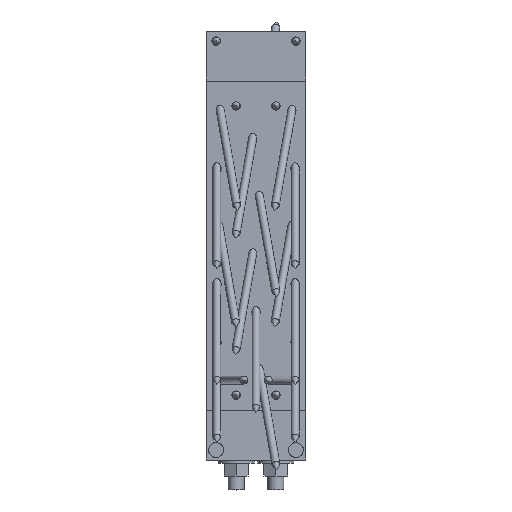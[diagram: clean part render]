
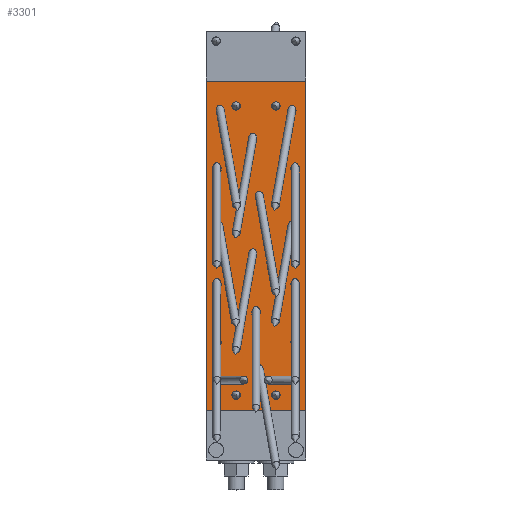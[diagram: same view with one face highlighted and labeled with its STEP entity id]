
A CAD part, top view. The second image highlights one B-rep face of the part: STEP entity #3301.
In plain terms, the highlighted planar face has unit normal (0, 0, 1) as drawn and (0, 0, -1) by its records, which use the part's own axes.
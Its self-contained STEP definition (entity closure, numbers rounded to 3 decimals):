
#384=ELLIPSE('',#3805,6.103,4.25);
#385=ELLIPSE('',#3806,6.103,4.25);
#386=ELLIPSE('',#3807,6.103,4.25);
#387=ELLIPSE('',#3808,6.103,4.25);
#388=ELLIPSE('',#3809,6.103,4.25);
#389=ELLIPSE('',#3810,6.01,4.25);
#390=ELLIPSE('',#3811,6.01,4.25);
#391=ELLIPSE('',#3812,6.103,4.25);
#392=ELLIPSE('',#3813,6.103,4.25);
#393=ELLIPSE('',#3814,6.01,4.25);
#394=ELLIPSE('',#3815,6.01,4.25);
#395=ELLIPSE('',#3816,6.01,4.25);
#396=ELLIPSE('',#3817,6.01,4.25);
#397=ELLIPSE('',#3818,6.01,4.25);
#398=ELLIPSE('',#3819,6.103,4.25);
#399=ELLIPSE('',#3824,4.316,4.25);
#400=ELLIPSE('',#3825,4.316,4.25);
#497=LINE('',#5436,#745);
#499=LINE('',#5478,#747);
#500=LINE('',#5480,#748);
#501=LINE('',#5482,#749);
#745=VECTOR('',#4333,1000.);
#747=VECTOR('',#4375,1000.);
#748=VECTOR('',#4376,1000.);
#749=VECTOR('',#4377,1000.);
#1043=ORIENTED_EDGE('',*,*,#1794,.F.);
#1044=ORIENTED_EDGE('',*,*,#1795,.F.);
#1045=ORIENTED_EDGE('',*,*,#1796,.F.);
#1046=ORIENTED_EDGE('',*,*,#1797,.F.);
#1047=ORIENTED_EDGE('',*,*,#1798,.F.);
#1048=ORIENTED_EDGE('',*,*,#1799,.F.);
#1049=ORIENTED_EDGE('',*,*,#1800,.F.);
#1050=ORIENTED_EDGE('',*,*,#1801,.F.);
#1051=ORIENTED_EDGE('',*,*,#1802,.F.);
#1052=ORIENTED_EDGE('',*,*,#1803,.F.);
#1053=ORIENTED_EDGE('',*,*,#1804,.F.);
#1054=ORIENTED_EDGE('',*,*,#1805,.F.);
#1055=ORIENTED_EDGE('',*,*,#1806,.F.);
#1056=ORIENTED_EDGE('',*,*,#1807,.F.);
#1057=ORIENTED_EDGE('',*,*,#1808,.F.);
#1058=ORIENTED_EDGE('',*,*,#1809,.F.);
#1059=ORIENTED_EDGE('',*,*,#1810,.F.);
#1060=ORIENTED_EDGE('',*,*,#1811,.F.);
#1061=ORIENTED_EDGE('',*,*,#1812,.F.);
#1062=ORIENTED_EDGE('',*,*,#1813,.F.);
#1063=ORIENTED_EDGE('',*,*,#1814,.T.);
#1064=ORIENTED_EDGE('',*,*,#1815,.T.);
#1065=ORIENTED_EDGE('',*,*,#1792,.F.);
#1066=ORIENTED_EDGE('',*,*,#1816,.T.);
#1067=ORIENTED_EDGE('',*,*,#1817,.T.);
#1792=EDGE_CURVE('',#2159,#2160,#497,.T.);
#1794=EDGE_CURVE('',#2161,#2161,#384,.T.);
#1795=EDGE_CURVE('',#2162,#2162,#385,.T.);
#1796=EDGE_CURVE('',#2163,#2163,#386,.T.);
#1797=EDGE_CURVE('',#2164,#2164,#387,.T.);
#1798=EDGE_CURVE('',#2165,#2165,#388,.T.);
#1799=EDGE_CURVE('',#2166,#2166,#389,.T.);
#1800=EDGE_CURVE('',#2167,#2167,#390,.T.);
#1801=EDGE_CURVE('',#2168,#2168,#391,.T.);
#1802=EDGE_CURVE('',#2169,#2169,#392,.T.);
#1803=EDGE_CURVE('',#2170,#2170,#393,.T.);
#1804=EDGE_CURVE('',#2171,#2171,#394,.T.);
#1805=EDGE_CURVE('',#2172,#2172,#395,.T.);
#1806=EDGE_CURVE('',#2173,#2173,#396,.T.);
#1807=EDGE_CURVE('',#2174,#2174,#397,.T.);
#1808=EDGE_CURVE('',#2175,#2175,#398,.T.);
#1809=EDGE_CURVE('',#2176,#2176,#2373,.T.);
#1810=EDGE_CURVE('',#2177,#2177,#2374,.T.);
#1811=EDGE_CURVE('',#2178,#2178,#2375,.T.);
#1812=EDGE_CURVE('',#2179,#2179,#2376,.T.);
#1813=EDGE_CURVE('',#2180,#2159,#499,.T.);
#1814=EDGE_CURVE('',#2180,#2181,#500,.T.);
#1815=EDGE_CURVE('',#2181,#2160,#501,.T.);
#1816=EDGE_CURVE('',#2182,#2182,#399,.F.);
#1817=EDGE_CURVE('',#2183,#2183,#400,.F.);
#2159=VERTEX_POINT('',#5435);
#2160=VERTEX_POINT('',#5437);
#2161=VERTEX_POINT('',#5441);
#2162=VERTEX_POINT('',#5443);
#2163=VERTEX_POINT('',#5445);
#2164=VERTEX_POINT('',#5447);
#2165=VERTEX_POINT('',#5449);
#2166=VERTEX_POINT('',#5451);
#2167=VERTEX_POINT('',#5453);
#2168=VERTEX_POINT('',#5455);
#2169=VERTEX_POINT('',#5457);
#2170=VERTEX_POINT('',#5459);
#2171=VERTEX_POINT('',#5461);
#2172=VERTEX_POINT('',#5463);
#2173=VERTEX_POINT('',#5465);
#2174=VERTEX_POINT('',#5467);
#2175=VERTEX_POINT('',#5469);
#2176=VERTEX_POINT('',#5471);
#2177=VERTEX_POINT('',#5473);
#2178=VERTEX_POINT('',#5475);
#2179=VERTEX_POINT('',#5477);
#2180=VERTEX_POINT('',#5479);
#2181=VERTEX_POINT('',#5481);
#2182=VERTEX_POINT('',#5484);
#2183=VERTEX_POINT('',#5486);
#2373=CIRCLE('',#3820,4.25);
#2374=CIRCLE('',#3821,4.25);
#2375=CIRCLE('',#3822,4.25);
#2376=CIRCLE('',#3823,4.25);
#2506=EDGE_LOOP('',(#1043));
#2507=EDGE_LOOP('',(#1044));
#2508=EDGE_LOOP('',(#1045));
#2509=EDGE_LOOP('',(#1046));
#2510=EDGE_LOOP('',(#1047));
#2511=EDGE_LOOP('',(#1048));
#2512=EDGE_LOOP('',(#1049));
#2513=EDGE_LOOP('',(#1050));
#2514=EDGE_LOOP('',(#1051));
#2515=EDGE_LOOP('',(#1052));
#2516=EDGE_LOOP('',(#1053));
#2517=EDGE_LOOP('',(#1054));
#2518=EDGE_LOOP('',(#1055));
#2519=EDGE_LOOP('',(#1056));
#2520=EDGE_LOOP('',(#1057));
#2521=EDGE_LOOP('',(#1058));
#2522=EDGE_LOOP('',(#1059));
#2523=EDGE_LOOP('',(#1060));
#2524=EDGE_LOOP('',(#1061));
#2525=EDGE_LOOP('',(#1062,#1063,#1064,#1065));
#2526=EDGE_LOOP('',(#1066));
#2527=EDGE_LOOP('',(#1067));
#2862=FACE_BOUND('',#2506,.T.);
#2863=FACE_BOUND('',#2507,.T.);
#2864=FACE_BOUND('',#2508,.T.);
#2865=FACE_BOUND('',#2509,.T.);
#2866=FACE_BOUND('',#2510,.T.);
#2867=FACE_BOUND('',#2511,.T.);
#2868=FACE_BOUND('',#2512,.T.);
#2869=FACE_BOUND('',#2513,.T.);
#2870=FACE_BOUND('',#2514,.T.);
#2871=FACE_BOUND('',#2515,.T.);
#2872=FACE_BOUND('',#2516,.T.);
#2873=FACE_BOUND('',#2517,.T.);
#2874=FACE_BOUND('',#2518,.T.);
#2875=FACE_BOUND('',#2519,.T.);
#2876=FACE_BOUND('',#2520,.T.);
#2877=FACE_BOUND('',#2521,.T.);
#2878=FACE_BOUND('',#2522,.T.);
#2879=FACE_BOUND('',#2523,.T.);
#2880=FACE_BOUND('',#2524,.T.);
#2881=FACE_BOUND('',#2525,.T.);
#2882=FACE_BOUND('',#2526,.T.);
#2883=FACE_BOUND('',#2527,.T.);
#3197=PLANE('',#3804);
#3301=ADVANCED_FACE('',(#2862,#2863,#2864,#2865,#2866,#2867,#2868,#2869,
#2870,#2871,#2872,#2873,#2874,#2875,#2876,#2877,#2878,#2879,#2880,#2881,
#2882,#2883),#3197,.T.);
#3804=AXIS2_PLACEMENT_3D('',#5439,#4335,#4336);
#3805=AXIS2_PLACEMENT_3D('',#5440,#4337,#4338);
#3806=AXIS2_PLACEMENT_3D('',#5442,#4339,#4340);
#3807=AXIS2_PLACEMENT_3D('',#5444,#4341,#4342);
#3808=AXIS2_PLACEMENT_3D('',#5446,#4343,#4344);
#3809=AXIS2_PLACEMENT_3D('',#5448,#4345,#4346);
#3810=AXIS2_PLACEMENT_3D('',#5450,#4347,#4348);
#3811=AXIS2_PLACEMENT_3D('',#5452,#4349,#4350);
#3812=AXIS2_PLACEMENT_3D('',#5454,#4351,#4352);
#3813=AXIS2_PLACEMENT_3D('',#5456,#4353,#4354);
#3814=AXIS2_PLACEMENT_3D('',#5458,#4355,#4356);
#3815=AXIS2_PLACEMENT_3D('',#5460,#4357,#4358);
#3816=AXIS2_PLACEMENT_3D('',#5462,#4359,#4360);
#3817=AXIS2_PLACEMENT_3D('',#5464,#4361,#4362);
#3818=AXIS2_PLACEMENT_3D('',#5466,#4363,#4364);
#3819=AXIS2_PLACEMENT_3D('',#5468,#4365,#4366);
#3820=AXIS2_PLACEMENT_3D('',#5470,#4367,#4368);
#3821=AXIS2_PLACEMENT_3D('',#5472,#4369,#4370);
#3822=AXIS2_PLACEMENT_3D('',#5474,#4371,#4372);
#3823=AXIS2_PLACEMENT_3D('',#5476,#4373,#4374);
#3824=AXIS2_PLACEMENT_3D('',#5483,#4378,#4379);
#3825=AXIS2_PLACEMENT_3D('',#5485,#4380,#4381);
#4333=DIRECTION('',(0.,-1.,0.));
#4335=DIRECTION('',(0.,0.,-1.));
#4336=DIRECTION('',(-1.,0.,0.));
#4337=DIRECTION('',(0.,0.,-1.));
#4338=DIRECTION('',(0.171,-0.985,0.));
#4339=DIRECTION('',(0.,0.,-1.));
#4340=DIRECTION('',(-0.171,-0.985,0.));
#4341=DIRECTION('',(0.,0.,-1.));
#4342=DIRECTION('',(0.171,-0.985,0.));
#4343=DIRECTION('',(0.,0.,-1.));
#4344=DIRECTION('',(-0.171,-0.985,0.));
#4345=DIRECTION('',(0.,0.,-1.));
#4346=DIRECTION('',(0.171,-0.985,0.));
#4347=DIRECTION('',(0.,0.,-1.));
#4348=DIRECTION('',(0.,-1.,0.));
#4349=DIRECTION('',(0.,0.,-1.));
#4350=DIRECTION('',(0.,-1.,0.));
#4351=DIRECTION('',(0.,0.,-1.));
#4352=DIRECTION('',(-0.171,-0.985,0.));
#4353=DIRECTION('',(0.,0.,-1.));
#4354=DIRECTION('',(0.171,-0.985,0.));
#4355=DIRECTION('',(0.,0.,-1.));
#4356=DIRECTION('',(0.,-1.,0.));
#4357=DIRECTION('',(0.,0.,-1.));
#4358=DIRECTION('',(0.,-1.,0.));
#4359=DIRECTION('',(0.,0.,-1.));
#4360=DIRECTION('',(0.,-1.,0.));
#4361=DIRECTION('',(0.,0.,-1.));
#4362=DIRECTION('',(0.,-1.,0.));
#4363=DIRECTION('',(0.,0.,-1.));
#4364=DIRECTION('',(0.,-1.,0.));
#4365=DIRECTION('',(0.,0.,-1.));
#4366=DIRECTION('',(-0.171,-0.985,0.));
#4367=DIRECTION('',(0.,0.,-1.));
#4368=DIRECTION('',(-1.,0.,0.));
#4369=DIRECTION('',(0.,0.,-1.));
#4370=DIRECTION('',(-1.,0.,0.));
#4371=DIRECTION('',(0.,0.,-1.));
#4372=DIRECTION('',(-1.,0.,0.));
#4373=DIRECTION('',(0.,0.,-1.));
#4374=DIRECTION('',(-1.,0.,0.));
#4375=DIRECTION('',(-1.,0.,0.));
#4376=DIRECTION('',(0.,-1.,0.));
#4377=DIRECTION('',(-1.,0.,0.));
#4378=DIRECTION('',(0.,0.,-1.));
#4379=DIRECTION('',(-1.,0.,0.));
#4380=DIRECTION('',(0.,0.,-1.));
#4381=DIRECTION('',(1.,0.,0.));
#5435=CARTESIAN_POINT('',(0.,350.,0.));
#5436=CARTESIAN_POINT('',(0.,370.,0.));
#5437=CARTESIAN_POINT('',(0.,20.,0.));
#5439=CARTESIAN_POINT('',(0.,370.,0.));
#5440=CARTESIAN_POINT('',(46.473,78.313,0.));
#5441=CARTESIAN_POINT('',(47.518,72.299,0.));
#5442=CARTESIAN_POINT('',(53.527,136.316,0.));
#5443=CARTESIAN_POINT('',(52.482,130.303,0.));
#5444=CARTESIAN_POINT('',(46.473,194.313,0.));
#5445=CARTESIAN_POINT('',(47.518,188.3,0.));
#5446=CARTESIAN_POINT('',(14.277,50.304,0.));
#5447=CARTESIAN_POINT('',(13.232,44.291,0.));
#5448=CARTESIAN_POINT('',(85.723,50.304,0.));
#5449=CARTESIAN_POINT('',(86.768,44.291,0.));
#5450=CARTESIAN_POINT('',(10.75,108.,0.));
#5451=CARTESIAN_POINT('',(10.75,101.99,0.));
#5452=CARTESIAN_POINT('',(89.25,108.,0.));
#5453=CARTESIAN_POINT('',(89.25,101.99,0.));
#5454=CARTESIAN_POINT('',(12.905,166.307,0.));
#5455=CARTESIAN_POINT('',(11.861,160.294,0.));
#5456=CARTESIAN_POINT('',(85.723,166.312,0.));
#5457=CARTESIAN_POINT('',(86.768,160.299,0.));
#5458=CARTESIAN_POINT('',(10.75,224.,0.));
#5459=CARTESIAN_POINT('',(10.75,217.99,0.));
#5460=CARTESIAN_POINT('',(89.25,224.,0.));
#5461=CARTESIAN_POINT('',(89.25,217.99,0.));
#5462=CARTESIAN_POINT('',(50.,252.,0.));
#5463=CARTESIAN_POINT('',(50.,245.99,0.));
#5464=CARTESIAN_POINT('',(10.75,282.,0.));
#5465=CARTESIAN_POINT('',(10.75,275.99,0.));
#5466=CARTESIAN_POINT('',(89.25,282.,0.));
#5467=CARTESIAN_POINT('',(89.25,275.99,0.));
#5468=CARTESIAN_POINT('',(53.602,310.306,0.));
#5469=CARTESIAN_POINT('',(52.558,304.293,0.));
#5470=CARTESIAN_POINT('',(30.,45.,0.));
#5471=CARTESIAN_POINT('',(25.75,45.,0.));
#5472=CARTESIAN_POINT('',(70.,45.,0.));
#5473=CARTESIAN_POINT('',(65.75,45.,0.));
#5474=CARTESIAN_POINT('',(70.,335.,0.));
#5475=CARTESIAN_POINT('',(65.75,335.,0.));
#5476=CARTESIAN_POINT('',(30.,335.,0.));
#5477=CARTESIAN_POINT('',(25.75,335.,0.));
#5478=CARTESIAN_POINT('',(100.,350.,0.));
#5479=CARTESIAN_POINT('',(100.,350.,0.));
#5480=CARTESIAN_POINT('',(100.,370.,0.));
#5481=CARTESIAN_POINT('',(100.,20.,0.));
#5482=CARTESIAN_POINT('',(357.205,20.,0.));
#5483=CARTESIAN_POINT('',(14.277,320.,0.));
#5484=CARTESIAN_POINT('',(9.961,320.,0.));
#5485=CARTESIAN_POINT('',(85.723,320.,0.));
#5486=CARTESIAN_POINT('',(90.039,320.,0.));
